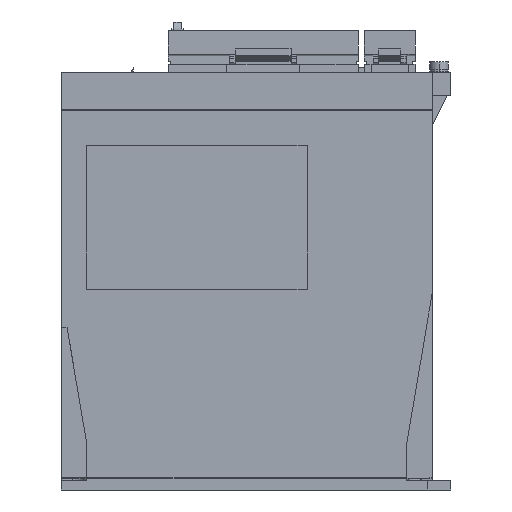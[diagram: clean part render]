
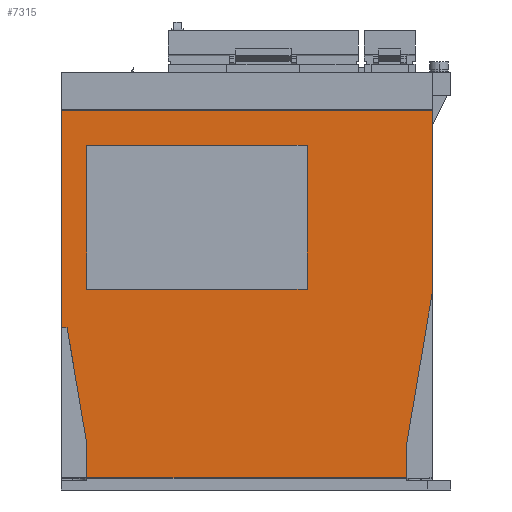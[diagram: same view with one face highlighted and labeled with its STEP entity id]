
A CAD part, left-side view. The second image highlights one B-rep face of the part: STEP entity #7315.
In plain terms, the highlighted planar face has unit normal (-1, 0, 0).
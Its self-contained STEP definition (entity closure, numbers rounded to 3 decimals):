
#5571 = VERTEX_POINT ( 'NONE', #28264 ) ;
#5628 = VERTEX_POINT ( 'NONE', #28418 ) ;
#5630 = EDGE_CURVE ( 'NONE', #5571, #5628, #28417, .T. ) ;
#7301 = ORIENTED_EDGE ( 'NONE', *, *, #7302, .T. ) ;
#7302 = EDGE_CURVE ( 'NONE', #5628, #7303, #31278, .T. ) ;
#7303 = VERTEX_POINT ( 'NONE', #31274 ) ;
#7304 = ORIENTED_EDGE ( 'NONE', *, *, #7305, .F. ) ;
#7305 = EDGE_CURVE ( 'NONE', #7306, #7303, #31273, .T. ) ;
#7306 = VERTEX_POINT ( 'NONE', #31269 ) ;
#7307 = ORIENTED_EDGE ( 'NONE', *, *, #7308, .T. ) ;
#7308 = EDGE_CURVE ( 'NONE', #7306, #7309, #31268, .T. ) ;
#7309 = VERTEX_POINT ( 'NONE', #31264 ) ;
#7310 = VERTEX_POINT ( 'NONE', #31263 ) ;
#7315 = ADVANCED_FACE ( 'NONE', ( #31317, #31316 ), #31315, .F. ) ;
#7316 = EDGE_LOOP ( 'NONE', ( #7317, #7321, #7324, #7382 ) ) ;
#7317 = ORIENTED_EDGE ( 'NONE', *, *, #7318, .F. ) ;
#7318 = EDGE_CURVE ( 'NONE', #7319, #7320, #31310, .T. ) ;
#7319 = VERTEX_POINT ( 'NONE', #31306 ) ;
#7320 = VERTEX_POINT ( 'NONE', #31305 ) ;
#7321 = ORIENTED_EDGE ( 'NONE', *, *, #7322, .F. ) ;
#7322 = EDGE_CURVE ( 'NONE', #7323, #7319, #31304, .T. ) ;
#7323 = VERTEX_POINT ( 'NONE', #31300 ) ;
#7324 = ORIENTED_EDGE ( 'NONE', *, *, #7325, .F. ) ;
#7325 = EDGE_CURVE ( 'NONE', #7381, #7323, #31299, .T. ) ;
#7327 = VERTEX_POINT ( 'NONE', #31291 ) ;
#7329 = EDGE_CURVE ( 'NONE', #7327, #7330, #31290, .T. ) ;
#7330 = VERTEX_POINT ( 'NONE', #31350 ) ;
#7367 = ORIENTED_EDGE ( 'NONE', *, *, #7368, .T. ) ;
#7368 = EDGE_CURVE ( 'NONE', #7309, #7310, #31355, .T. ) ;
#7369 = ORIENTED_EDGE ( 'NONE', *, *, #7370, .F. ) ;
#7370 = EDGE_CURVE ( 'NONE', #7371, #7310, #31351, .T. ) ;
#7371 = VERTEX_POINT ( 'NONE', #31411 ) ;
#7372 = ORIENTED_EDGE ( 'NONE', *, *, #7373, .T. ) ;
#7373 = EDGE_CURVE ( 'NONE', #7371, #7330, #31410, .T. ) ;
#7374 = ORIENTED_EDGE ( 'NONE', *, *, #7329, .F. ) ;
#7375 = ORIENTED_EDGE ( 'NONE', *, *, #7376, .F. ) ;
#7376 = EDGE_CURVE ( 'NONE', #5571, #7327, #31406, .T. ) ;
#7381 = VERTEX_POINT ( 'NONE', #31392 ) ;
#7382 = ORIENTED_EDGE ( 'NONE', *, *, #7383, .F. ) ;
#7383 = EDGE_CURVE ( 'NONE', #7320, #7381, #31391, .T. ) ;
#7384 = EDGE_LOOP ( 'NONE', ( #7385, #7301, #7304, #7307, #7367, #7369, #7372, #7374, #7375 ) ) ;
#7385 = ORIENTED_EDGE ( 'NONE', *, *, #5630, .T. ) ;
#28264 = CARTESIAN_POINT ( 'NONE',  ( -6., 5., 163.8 ) ) ;
#28414 = DIRECTION ( 'NONE',  ( 0., 0., -1. ) ) ;
#28415 = VECTOR ( 'NONE', #28414, 1000. ) ;
#28416 = CARTESIAN_POINT ( 'NONE',  ( -6., 5., 338.642 ) ) ;
#28417 = LINE ( 'NONE', #28416, #28415 ) ;
#28418 = CARTESIAN_POINT ( 'NONE',  ( -6., 5., 70. ) ) ;
#31263 = CARTESIAN_POINT ( 'NONE',  ( -6., -144., 5.2 ) ) ;
#31264 = CARTESIAN_POINT ( 'NONE',  ( -6., -6., 5.2 ) ) ;
#31265 = DIRECTION ( 'NONE',  ( 0., 0., -1. ) ) ;
#31266 = VECTOR ( 'NONE', #31265, 1000. ) ;
#31267 = CARTESIAN_POINT ( 'NONE',  ( -6., -6., 20. ) ) ;
#31268 = LINE ( 'NONE', #31267, #31266 ) ;
#31269 = CARTESIAN_POINT ( 'NONE',  ( -6., -6., 20. ) ) ;
#31270 = DIRECTION ( 'NONE',  ( 0., 0.167, 0.986 ) ) ;
#31271 = VECTOR ( 'NONE', #31270, 1000. ) ;
#31272 = CARTESIAN_POINT ( 'NONE',  ( -6., -6., 20. ) ) ;
#31273 = LINE ( 'NONE', #31272, #31271 ) ;
#31274 = CARTESIAN_POINT ( 'NONE',  ( -6., 2.462, 70. ) ) ;
#31275 = DIRECTION ( 'NONE',  ( 0., -1., 0. ) ) ;
#31276 = VECTOR ( 'NONE', #31275, 1000. ) ;
#31277 = CARTESIAN_POINT ( 'NONE',  ( -6., 5., 70. ) ) ;
#31278 = LINE ( 'NONE', #31277, #31276 ) ;
#31287 = DIRECTION ( 'NONE',  ( 0., 0., -1. ) ) ;
#31288 = VECTOR ( 'NONE', #31287, 1000. ) ;
#31289 = CARTESIAN_POINT ( 'NONE',  ( -6., -155., 338.642 ) ) ;
#31290 = LINE ( 'NONE', #31289, #31288 ) ;
#31291 = CARTESIAN_POINT ( 'NONE',  ( -6., -155., 163.8 ) ) ;
#31296 = DIRECTION ( 'NONE',  ( 0., 0., -1. ) ) ;
#31297 = VECTOR ( 'NONE', #31296, 1000. ) ;
#31298 = CARTESIAN_POINT ( 'NONE',  ( -6., -6., 86.6 ) ) ;
#31299 = LINE ( 'NONE', #31298, #31297 ) ;
#31300 = CARTESIAN_POINT ( 'NONE',  ( -6., -6., 86.6 ) ) ;
#31301 = DIRECTION ( 'NONE',  ( 0., -1., 0. ) ) ;
#31302 = VECTOR ( 'NONE', #31301, 1000. ) ;
#31303 = CARTESIAN_POINT ( 'NONE',  ( -6., -6., 86.6 ) ) ;
#31304 = LINE ( 'NONE', #31303, #31302 ) ;
#31305 = CARTESIAN_POINT ( 'NONE',  ( -6., -101., 148.6 ) ) ;
#31306 = CARTESIAN_POINT ( 'NONE',  ( -6., -101., 86.6 ) ) ;
#31307 = DIRECTION ( 'NONE',  ( 0., 0., 1. ) ) ;
#31308 = VECTOR ( 'NONE', #31307, 1000. ) ;
#31309 = CARTESIAN_POINT ( 'NONE',  ( -6., -101., 86.6 ) ) ;
#31310 = LINE ( 'NONE', #31309, #31308 ) ;
#31311 = DIRECTION ( 'NONE',  ( 0., 1., 0. ) ) ;
#31312 = DIRECTION ( 'NONE',  ( 1., 0., 0. ) ) ;
#31313 = CARTESIAN_POINT ( 'NONE',  ( -6., 5., 338.642 ) ) ;
#31314 = AXIS2_PLACEMENT_3D ( 'NONE', #31313, #31312, #31311 ) ;
#31315 = PLANE ( 'NONE',  #31314 ) ;
#31316 = FACE_OUTER_BOUND ( 'NONE', #7384, .T. ) ;
#31317 = FACE_BOUND ( 'NONE', #7316, .T. ) ;
#31350 = CARTESIAN_POINT ( 'NONE',  ( -6., -155., 85. ) ) ;
#31351 = LINE ( 'NONE', #31414, #31413 ) ;
#31352 = DIRECTION ( 'NONE',  ( 0., -1., 0. ) ) ;
#31353 = VECTOR ( 'NONE', #31352, 1000. ) ;
#31354 = CARTESIAN_POINT ( 'NONE',  ( -6., -6., 5.2 ) ) ;
#31355 = LINE ( 'NONE', #31354, #31353 ) ;
#31388 = DIRECTION ( 'NONE',  ( 0., 1., 0. ) ) ;
#31389 = VECTOR ( 'NONE', #31388, 1000. ) ;
#31390 = CARTESIAN_POINT ( 'NONE',  ( -6., -6., 148.6 ) ) ;
#31391 = LINE ( 'NONE', #31390, #31389 ) ;
#31392 = CARTESIAN_POINT ( 'NONE',  ( -6., -6., 148.6 ) ) ;
#31403 = DIRECTION ( 'NONE',  ( 0., -1., 0. ) ) ;
#31404 = VECTOR ( 'NONE', #31403, 1000. ) ;
#31405 = CARTESIAN_POINT ( 'NONE',  ( -6., 5., 163.8 ) ) ;
#31406 = LINE ( 'NONE', #31405, #31404 ) ;
#31407 = DIRECTION ( 'NONE',  ( 0., -0.167, 0.986 ) ) ;
#31408 = VECTOR ( 'NONE', #31407, 1000. ) ;
#31409 = CARTESIAN_POINT ( 'NONE',  ( -6., -144., 20. ) ) ;
#31410 = LINE ( 'NONE', #31409, #31408 ) ;
#31411 = CARTESIAN_POINT ( 'NONE',  ( -6., -144., 20. ) ) ;
#31412 = DIRECTION ( 'NONE',  ( 0., 0., -1. ) ) ;
#31413 = VECTOR ( 'NONE', #31412, 1000. ) ;
#31414 = CARTESIAN_POINT ( 'NONE',  ( -6., -144., 20. ) ) ;
